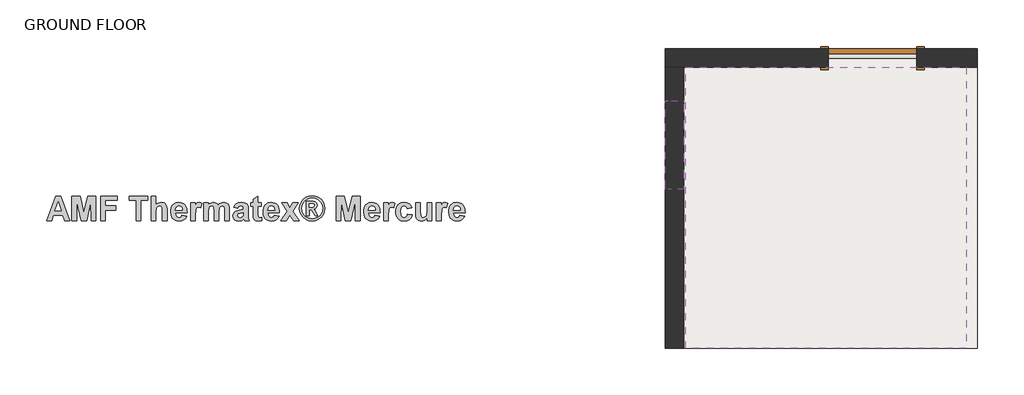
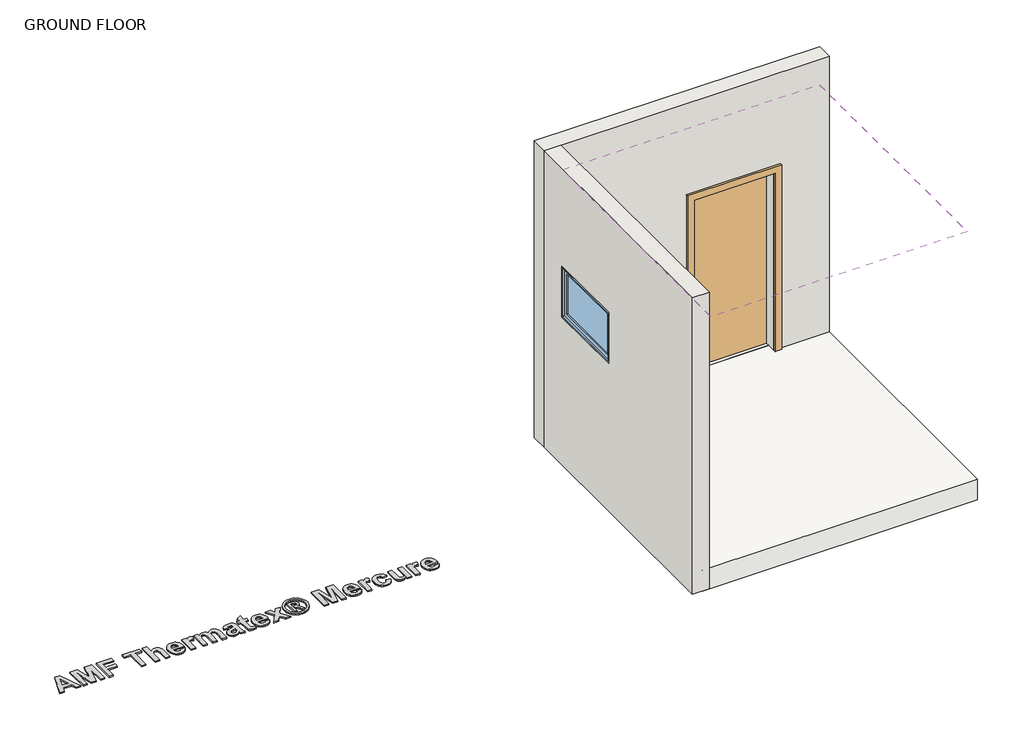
# One storey: 2 walls, 1 covering, 1 door, 1 proxy, 1 slab, 1 window.
"""IFC4 building model written with IfcOpenShell, lengths in millimetres."""

from ifc_helpers import new_model, si_unit, frame, origin, origin_with_axes, place, context, project, spatial, polyline, outline, extrude, faceted_brep, transform, mapped, element, save
from components import m_single_flush_0915_x_2134mm_f5238887, m_fixed_0915_x_0610mm_e83bb20a

model = new_model("IFC4")

# Units and contexts
model_context = context("Model", 3, world=origin())
ifc_project = project(units=[si_unit("LENGTHUNIT", "METRE", prefix="MILLI")], contexts=[model_context])

# Site, building, storey
site = spatial("IfcSite", under=ifc_project)
building = spatial("IfcBuilding", under=site)
storey = spatial("IfcBuildingStorey", under=building, Name="GROUND FLOOR", Elevation=0.0)

# Proxy
placement = place(None, origin())
element("IfcBuildingElementProxy", 1, Name="600mm Arial", ObjectType="600mm Arial", at=placement, inside=storey, context=model_context, shape_type="SweptSolid", body=[
    extrude(outline(polyline([(-7411.3659202, -8137.2370141), (-7462.4168463, -8137.2370141), (-7482.4070478, -8080.5559363), (-7578.752228, -8080.5559363), (-7598.489389, -8137.2370141), (-7650.2361766, -8137.2370141), (-7557.1172631, -7882.1721641), (-7505.3704756, -7882.1721641), (-7411.3659202, -8137.2370141)]), holes=[polyline([(-7497.9690402, -8036.0208038), (-7530.8010484, -7942.9018903), (-7563.1902357, -8036.0208038), (-7497.9690402, -8036.0208038)])]), origin_with_axes(), (0.0, 0.0, 1.0), 15.0),
    extrude(outline(polyline([(-7387.0740298, -8137.2370141), (-7387.0740298, -7882.1721641), (-7303.8236968, -7882.1721641), (-7263.5902532, -8056.1375256), (-7223.3568096, -7882.1721641), (-7140.1064766, -7882.1721641), (-7140.1064766, -8137.2370141), (-7188.6902575, -8137.2370141), (-7190.7145817, -7936.4493569), (-7235.123194, -8137.2370141), (-7291.9940522, -8137.2370141), (-7336.4659246, -7936.4493569), (-7338.4902488, -8137.2370141), (-7387.0740298, -8137.2370141)])), origin_with_axes(), (0.0, 0.0, 1.0), 15.0),
    extrude(outline(polyline([(-7091.5226956, -8137.2370141), (-7091.5226956, -7882.1721641), (-6917.4308139, -7882.1721641), (-6917.4308139, -7926.7072966), (-7042.9389147, -7926.7072966), (-7042.9389147, -7983.3883744), (-6933.6254076, -7983.3883744), (-6933.6254076, -8027.9235069), (-7042.9389147, -8027.9235069), (-7042.9389147, -8137.2370141), (-7091.5226956, -8137.2370141)])), origin_with_axes(), (0.0, 0.0, 1.0), 15.0),
    extrude(outline(polyline([(-6723.0956901, -8137.2370141), (-6723.0956901, -7926.7072966), (-6795.9713615, -7926.7072966), (-6795.9713615, -7882.1721641), (-6601.6362377, -7882.1721641), (-6601.6362377, -7926.7072966), (-6674.5119092, -7926.7072966), (-6674.5119092, -8137.2370141), (-6723.0956901, -8137.2370141)])), origin_with_axes(), (0.0, 0.0, 1.0), 15.0),
    extrude(outline(polyline([(-6520.6632695, -7882.1721641), (-6520.6632695, -7974.531956), (-6508.4580179, -7962.4650859), (-6495.1219914, -7953.845893), (-6480.6551901, -7948.6743773), (-6465.0576139, -7946.9505387), (-6449.2425811, -7948.5241345), (-6435.0723116, -7953.2449218), (-6423.3691873, -7960.4249467), (-6414.9555898, -7969.3762553), (-6405.7196106, -7991.1061104), (-6403.2524655, -8028.0500272), (-6403.2524655, -8137.2370141), (-6451.8362465, -8137.2370141), (-6451.8362465, -8038.1716482), (-6454.5564321, -8000.6900203), (-6464.1719721, -7988.0696241), (-6481.3787278, -7983.3883744), (-6492.6390312, -7984.8908025), (-6502.634132, -7989.3980869), (-6510.7393364, -7996.9260425), (-6516.3299505, -8007.4904845), (-6520.6632695, -8043.2957189), (-6520.6632695, -8137.2370141), (-6569.2470504, -8137.2370141), (-6569.2470504, -7882.1721641), (-6520.6632695, -7882.1721641)])), origin_with_axes(), (0.0, 0.0, 1.0), 15.0),
    extrude(outline(polyline([(-6249.4038258, -8080.5559363), (-6200.8200449, -8088.6532331), (-6212.6496895, -8111.3240827), (-6229.7931851, -8127.8428846), (-6252.0765664, -8137.924968), (-6279.325868, -8141.2856625), (-6301.3285325, -8139.3048296), (-6320.2709881, -8133.362331), (-6336.1532348, -8123.4581667), (-6348.9752727, -8109.5923366), (-6362.3547905, -8080.888052), (-6366.8146298, -8045.5098235), (-6365.3359242, -8023.6692631), (-6360.8998075, -8004.3274779), (-6353.5062796, -7987.4844679), (-6343.1553406, -7973.1402331), (-6330.5428519, -7961.6822418), (-6316.364675, -7953.4979623), (-6300.6208098, -7948.5873946), (-6283.3112563, -7946.9505387), (-6264.0762226, -7948.6308859), (-6246.9841258, -7953.6719277), (-6232.034966, -7962.0736639), (-6219.2287431, -7973.8360945), (-6209.0240932, -7989.069925), (-6201.8796521, -8007.8858603), (-6197.7954199, -8030.2839006), (-6196.7713965, -8056.2640458), (-6318.2308488, -8056.2640458), (-6315.1152874, -8076.7286983), (-6306.7807651, -8092.0692802), (-6294.4924845, -8101.6531901), (-6279.5156484, -8104.8478268), (-6269.3149522, -8103.4086588), (-6260.8539096, -8099.0911548), (-6254.1957808, -8091.5790142), (-6249.4038258, -8080.5559363)]), holes=[polyline([(-6245.3551774, -8027.9235069), (-6248.3125886, -8008.7161495), (-6256.1726599, -7994.743568), (-6267.5911136, -7986.2271728), (-6281.223672, -7983.3883744), (-6295.6153519, -7986.3774156), (-6307.2868461, -7995.3445392), (-6314.941322, -8009.4989937), (-6317.4084671, -8027.9235069), (-6245.3551774, -8027.9235069)])]), origin_with_axes(), (0.0, 0.0, 1.0), 15.0),
    extrude(outline(polyline([(-6111.7497798, -8137.2370141), (-6160.3335608, -8137.2370141), (-6160.3335608, -7950.9991871), (-6111.7497798, -7950.9991871), (-6111.7497798, -7976.935841), (-6092.3289195, -7952.7388407), (-6072.7182787, -7946.9505387), (-6057.5516622, -7949.512574), (-6042.9227568, -7957.19868), (-6057.0930262, -8003.4418361), (-6068.7961506, -7997.5111987), (-6079.613633, -7995.5343196), (-6096.7254986, -8001.0695811), (-6102.9724366, -8008.8268548), (-6107.7327615, -8021.0281526), (-6111.7497798, -8081.5048383), (-6111.7497798, -8137.2370141)])), origin_with_axes(), (0.0, 0.0, 1.0), 15.0),
    extrude(outline(polyline([(-6026.7281631, -7950.9991871), (-5978.1443822, -7950.9991871), (-5978.1443822, -7975.9236789), (-5966.1842636, -7963.24793), (-5953.1408152, -7954.1938237), (-5939.0140371, -7948.7613599), (-5923.8039293, -7946.9505387), (-5908.1549543, -7948.7297299), (-5894.7358989, -7954.0673035), (-5883.5309481, -7963.0107046), (-5874.5242869, -7975.6073782), (-5862.0857635, -7963.0107046), (-5848.6825232, -7954.0673035), (-5834.3303809, -7948.7297299), (-5819.0451516, -7946.9505387), (-5800.5890083, -7949.0302155), (-5785.2009813, -7955.269246), (-5773.0866661, -7965.5411098), (-5764.4516582, -7979.7192868), (-5760.7509405, -7995.2970941), (-5759.5173679, -8018.2447068), (-5759.5173679, -8137.2370141), (-5808.1011489, -8137.2370141), (-5808.1011489, -8030.0110913), (-5809.3347214, -8007.0634786), (-5813.0354391, -7994.0160765), (-5821.4174065, -7986.0452999), (-5833.4052014, -7983.3883744), (-5843.1077241, -7984.9777852), (-5852.2250906, -7989.7460176), (-5859.8163063, -7997.5823664), (-5864.940377, -8008.3761263), (-5868.8308751, -8047.1545869), (-5868.8308751, -8137.2370141), (-5917.414656, -8137.2370141), (-5917.414656, -8034.4393005), (-5919.9450613, -7999.1085171), (-5927.7576875, -7987.2788725), (-5942.1493674, -7983.3883744), (-5952.539844, -7984.9303401), (-5961.8232683, -7989.5562372), (-5969.3195939, -7997.1000079), (-5974.3487743, -8007.3955943), (-5978.1443822, -8046.0791647), (-5978.1443822, -8137.2370141), (-6026.7281631, -8137.2370141), (-6026.7281631, -7950.9991871)])), origin_with_axes(), (0.0, 0.0, 1.0), 15.0),
    extrude(outline(polyline([(-5670.4471028, -8007.6802649), (-5714.9822354, -7999.582968), (-5705.3271578, -7976.2399795), (-5690.5321946, -7959.8556055), (-5668.9683973, -7950.1768054), (-5639.0068175, -7946.9505387), (-5611.9156662, -7948.9036952), (-5592.7636614, -7954.7631649), (-5579.8269645, -7963.6195833), (-5571.381737, -7974.5635861), (-5566.7321173, -7991.5726539), (-5565.1822441, -8018.6242676), (-5565.1822441, -8076.064467), (-5562.6202088, -8112.2492622), (-5553.0362989, -8137.2370141), (-5601.6200798, -8137.2370141), (-5606.1748093, -8121.801542), (-5607.8828328, -8115.6653093), (-5633.8827469, -8134.8647591), (-5648.1953516, -8139.6804367), (-5663.4252283, -8141.2856625), (-5688.1994772, -8137.3872569), (-5707.106349, -8125.6920401), (-5719.0862364, -8108.0503709), (-5723.0795322, -8086.3126083), (-5721.300341, -8071.4148473), (-5715.9627674, -8058.2251099), (-5707.4147422, -8047.3285523), (-5696.0041959, -8039.3103306), (-5658.9970191, -8027.8602468), (-5613.7660251, -8015.7775617), (-5613.7660251, -8010.6534911), (-5615.2763607, -7998.0330948), (-5619.8073676, -7989.6511274), (-5628.5135432, -7984.9540627), (-5642.5493849, -7983.3883744), (-5652.6235608, -7984.7326522), (-5660.1989616, -7988.7654856), (-5670.4471028, -8007.6802649)]), holes=[polyline([(-5613.7660251, -8052.2153974), (-5641.157662, -8058.9526014), (-5665.702593, -8066.6387074), (-5672.2974617, -8073.5498767), (-5674.4957513, -8082.1374396), (-5672.7323751, -8090.748725), (-5667.4422466, -8098.1106228), (-5659.4319325, -8103.1635258), (-5649.5079993, -8104.8478268), (-5637.5992796, -8102.8867627), (-5626.2915311, -8097.0035705), (-5615.5373087, -8082.4537402), (-5613.7660251, -8061.0085557), (-5613.7660251, -8052.2153974)])]), origin_with_axes(), (0.0, 0.0, 1.0), 15.0),
    extrude(outline(polyline([(-5427.5281981, -7950.9991871), (-5427.5281981, -7987.4370228), (-5463.9660338, -7987.4370228), (-5463.9660338, -8067.3345688), (-5462.8589815, -8095.5802175), (-5457.8298011, -8102.2225313), (-5448.2775212, -8104.8478268), (-5425.5038739, -8100.166577), (-5423.4795497, -8134.7066088), (-5442.2203636, -8139.6408991), (-5463.2701724, -8141.2856625), (-5487.8151034, -8136.730933), (-5503.8515467, -8124.9645486), (-5510.9683115, -8105.417168), (-5512.5498148, -8070.0547545), (-5512.5498148, -7987.4370228), (-5536.8417052, -7987.4370228), (-5536.8417052, -7950.9991871), (-5512.5498148, -7950.9991871), (-5512.5498148, -7914.5613514), (-5463.9660338, -7886.2208125), (-5463.9660338, -7950.9991871), (-5427.5281981, -7950.9991871)])), origin_with_axes(), (0.0, 0.0, 1.0), 15.0),
    extrude(outline(polyline([(-5293.9228005, -8080.5559363), (-5245.3390195, -8088.6532331), (-5257.1686641, -8111.3240827), (-5274.3121597, -8127.8428846), (-5296.595541, -8137.924968), (-5323.8448427, -8141.2856625), (-5345.8475071, -8139.3048296), (-5364.7899627, -8133.362331), (-5380.6722095, -8123.4581667), (-5393.4942474, -8109.5923366), (-5406.8737652, -8080.888052), (-5411.3336044, -8045.5098235), (-5409.8548989, -8023.6692631), (-5405.4187822, -8004.3274779), (-5398.0252543, -7987.4844679), (-5387.6743153, -7973.1402331), (-5375.0618266, -7961.6822418), (-5360.8836496, -7953.4979623), (-5345.1397844, -7948.5873946), (-5327.8302309, -7946.9505387), (-5308.5951972, -7948.6308859), (-5291.5031005, -7953.6719277), (-5276.5539406, -7962.0736639), (-5263.7477178, -7973.8360945), (-5253.5430678, -7989.069925), (-5246.3986267, -8007.8858603), (-5242.3143945, -8030.2839006), (-5241.2903711, -8056.2640458), (-5362.7498235, -8056.2640458), (-5359.634262, -8076.7286983), (-5351.2997397, -8092.0692802), (-5339.0114592, -8101.6531901), (-5324.034623, -8104.8478268), (-5313.8339269, -8103.4086588), (-5305.3728843, -8099.0911548), (-5298.7147554, -8091.5790142), (-5293.9228005, -8080.5559363)]), holes=[polyline([(-5289.8741521, -8027.9235069), (-5292.8315632, -8008.7161495), (-5300.6916345, -7994.743568), (-5312.1100883, -7986.2271728), (-5325.7426466, -7983.3883744), (-5340.1343265, -7986.3774156), (-5351.8058208, -7995.3445392), (-5359.4602967, -8009.4989937), (-5361.9274418, -8027.9235069), (-5289.8741521, -8027.9235069)])]), origin_with_axes(), (0.0, 0.0, 1.0), 15.0),
    extrude(outline(polyline([(-5227.1201017, -8137.2370141), (-5161.329565, -8041.3346548), (-5219.0228048, -7950.9991871), (-5161.2663048, -7950.9991871), (-5133.1788065, -8002.1766334), (-5102.6874231, -7950.9991871), (-5044.9309231, -7950.9991871), (-5104.3321865, -8039.1838103), (-5036.8336263, -8137.2370141), (-5094.5901263, -8137.2370141), (-5133.1788065, -8079.5437742), (-5169.3636017, -8137.2370141), (-5227.1201017, -8137.2370141)])), origin_with_axes(), (0.0, 0.0, 1.0), 15.0),
    extrude(outline(polyline([(-4903.2282287, -7878.1235157), (-4870.0720123, -7882.354037), (-4838.2917037, -7895.0456008), (-4810.5284136, -7915.6367736), (-4789.4232522, -7943.5661217), (-4776.0911795, -7975.8999563), (-4771.6471553, -8009.7045891), (-4776.0041968, -8043.2640888), (-4789.0753215, -8075.2420853), (-4809.9432573, -8102.9895604), (-4837.6907325, -8123.8574963), (-4869.6687289, -8136.9286209), (-4903.2282287, -8141.2856625), (-4936.7877284, -8136.9286209), (-4968.7657248, -8123.8574963), (-4996.5132, -8102.9895604), (-5017.3811359, -8075.2420853), (-5030.4522605, -8043.2640888), (-5034.8093021, -8009.7045891), (-5030.3652778, -7975.8999563), (-5017.0332051, -7943.5661217), (-4995.9280438, -7915.6367736), (-4968.1647536, -7895.0456008), (-4936.3844451, -7882.354037), (-4903.2282287, -7878.1235157)]), holes=[polyline([(-4903.2914888, -7902.4154061), (-4930.2956574, -7905.8551758), (-4956.1453286, -7916.1744847), (-4978.7371031, -7932.9305121), (-4995.9675814, -7955.6804368), (-5006.879954, -7982.0440966), (-5010.5174116, -8009.6413289), (-5006.9669367, -8037.0092433), (-4996.3155121, -8063.06451), (-4979.2985367, -8085.6800069), (-4956.6514097, -8102.7286124), (-4930.580328, -8113.4274821), (-4903.2914888, -8116.993772), (-4875.931482, -8113.4274821), (-4849.8999379, -8102.7286124), (-4827.3002559, -8085.6800069), (-4810.2358354, -8063.06451), (-4799.5132432, -8037.0092433), (-4795.9390457, -8009.6413289), (-4799.5765033, -7982.0440966), (-4810.488876, -7955.6804368), (-4827.7430768, -7932.9305121), (-4850.4060189, -7916.1744847), (-4876.3110427, -7905.8551758), (-4903.2914888, -7902.4154061)])]), origin_with_axes(), (0.0, 0.0, 1.0), 15.0),
    extrude(outline(polyline([(-4961.9336307, -8084.6045847), (-4961.9336307, -7934.8045934), (-4934.5419937, -7934.8045934), (-4891.4618442, -7935.1841542), (-4870.3013303, -7941.1622367), (-4857.680934, -7955.5539166), (-4852.6201235, -7976.9991011), (-4854.9686559, -7992.0233823), (-4862.014253, -8004.7070387), (-4873.314094, -8014.0379081), (-4888.4253579, -8019.0038284), (-4878.6516676, -8024.6339801), (-4869.194278, -8036.147324), (-4858.8828765, -8054.3662419), (-4844.5228267, -8084.6045847), (-4872.8633656, -8084.6045847), (-4886.8438546, -8060.6289949), (-4908.2574091, -8030.1376115), (-4916.4733187, -8025.4405468), (-4926.6344773, -8023.8748585), (-4933.5930918, -8023.8748585), (-4933.5930918, -8084.6045847), (-4961.9336307, -8084.6045847)]), holes=[polyline([(-4933.5930918, -7999.582968), (-4922.5225688, -7999.582968), (-4893.2331279, -7997.5902739), (-4884.2501892, -7990.5683993), (-4880.9606624, -7979.1499456), (-4884.1869291, -7968.1110527), (-4893.3596482, -7961.1840683), (-4922.5225688, -7959.0964839), (-4933.5930918, -7959.0964839), (-4933.5930918, -7999.582968)])]), origin_with_axes(), (0.0, 0.0, 1.0), 15.0),
    extrude(outline(polyline([(-4654.2363513, -8137.2370141), (-4654.2363513, -7882.1721641), (-4570.9860183, -7882.1721641), (-4530.7525747, -8056.1375256), (-4490.5191311, -7882.1721641), (-4407.2687981, -7882.1721641), (-4407.2687981, -8137.2370141), (-4455.8525791, -8137.2370141), (-4457.8769033, -7936.4493569), (-4502.2855156, -8137.2370141), (-4559.1563737, -8137.2370141), (-4603.6282461, -7936.4493569), (-4605.6525704, -8137.2370141), (-4654.2363513, -8137.2370141)])), origin_with_axes(), (0.0, 0.0, 1.0), 15.0),
    extrude(outline(polyline([(-4253.4201585, -8080.5559363), (-4204.8363775, -8088.6532331), (-4216.6660221, -8111.3240827), (-4233.8095177, -8127.8428846), (-4256.092899, -8137.924968), (-4283.3422006, -8141.2856625), (-4305.3448651, -8139.3048296), (-4324.2873207, -8133.362331), (-4340.1695675, -8123.4581667), (-4352.9916054, -8109.5923366), (-4366.3711232, -8080.888052), (-4370.8309624, -8045.5098235), (-4369.3522569, -8023.6692631), (-4364.9161401, -8004.3274779), (-4357.5226123, -7987.4844679), (-4347.1716733, -7973.1402331), (-4334.5591846, -7961.6822418), (-4320.3810076, -7953.4979623), (-4304.6371424, -7948.5873946), (-4287.3275889, -7946.9505387), (-4268.0925552, -7948.6308859), (-4251.0004584, -7953.6719277), (-4236.0512986, -7962.0736639), (-4223.2450758, -7973.8360945), (-4213.0404258, -7989.069925), (-4205.8959847, -8007.8858603), (-4201.8117525, -8030.2839006), (-4200.7877291, -8056.2640458), (-4322.2471815, -8056.2640458), (-4319.13162, -8076.7286983), (-4310.7970977, -8092.0692802), (-4298.5088171, -8101.6531901), (-4283.531981, -8104.8478268), (-4273.3312848, -8103.4086588), (-4264.8702423, -8099.0911548), (-4258.2121134, -8091.5790142), (-4253.4201585, -8080.5559363)]), holes=[polyline([(-4249.37151, -8027.9235069), (-4252.3289212, -8008.7161495), (-4260.1889925, -7994.743568), (-4271.6074463, -7986.2271728), (-4285.2400046, -7983.3883744), (-4299.6316845, -7986.3774156), (-4311.3031787, -7995.3445392), (-4318.9576546, -8009.4989937), (-4321.4247998, -8027.9235069), (-4249.37151, -8027.9235069)])]), origin_with_axes(), (0.0, 0.0, 1.0), 15.0),
    extrude(outline(polyline([(-4115.7661124, -8137.2370141), (-4164.3498934, -8137.2370141), (-4164.3498934, -7950.9991871), (-4115.7661124, -7950.9991871), (-4115.7661124, -7976.935841), (-4096.3452521, -7952.7388407), (-4076.7346113, -7946.9505387), (-4061.5679948, -7949.512574), (-4046.9390894, -7957.19868), (-4061.1093589, -8003.4418361), (-4072.8124832, -7997.5111987), (-4083.6299657, -7995.5343196), (-4100.7418312, -8001.0695811), (-4106.9887692, -8008.8268548), (-4111.7490941, -8021.0281526), (-4115.7661124, -8081.5048383), (-4115.7661124, -8137.2370141)])), origin_with_axes(), (0.0, 0.0, 1.0), 15.0),
    extrude(outline(polyline([(-3872.8472077, -8003.6316165), (-3921.4309886, -8011.7289133), (-3925.1554289, -7999.3694651), (-3931.7740201, -7990.5051392), (-3941.0495369, -7985.1675656), (-3952.7447537, -7983.3883744), (-3968.1485957, -7986.7253463), (-3980.0731305, -7996.7362621), (-3987.7117914, -8014.5598042), (-3990.2580116, -8041.3346548), (-3987.6089936, -8071.0194715), (-3979.6619396, -8090.4877769), (-3967.2550463, -8101.2578143), (-3951.2265105, -8104.8478268), (-3939.0884728, -8102.79978), (-3929.3701351, -8096.6556398), (-3922.1189426, -8085.4981341), (-3917.3823402, -8068.4099911), (-3868.7985593, -8076.5072879), (-3879.4341689, -8104.6501389), (-3896.7911674, -8124.9329185), (-3921.0277053, -8137.1974765), (-3952.3019328, -8141.2856625), (-3971.0684461, -8139.6764829), (-3987.8304041, -8134.8489441), (-4002.5878066, -8126.8030461), (-4015.3406538, -8115.538789), (-4025.622402, -8101.4317797), (-4032.9665079, -8084.8576252), (-4037.3729714, -8065.8163257), (-4038.8417926, -8044.307881), (-4037.3828558, -8022.5562802), (-4033.0060455, -8003.3548534), (-4025.7113616, -7986.7036007), (-4015.4988041, -7972.602522), (-4002.7953789, -7961.3797793), (-3988.028092, -7953.3635345), (-3971.1969433, -7948.5537876), (-3952.3019328, -7946.9505387), (-3923.059937, -7950.4535685), (-3900.4918851, -7960.9626578), (-3883.9651758, -7978.635957), (-3872.8472077, -8003.6316165)])), origin_with_axes(), (0.0, 0.0, 1.0), 15.0),
    extrude(outline(polyline([(-3714.9499196, -8137.2370141), (-3714.9499196, -8109.9086373), (-3726.1390553, -8122.9639469), (-3740.3488624, -8132.9036951), (-3756.5197335, -8139.1901706), (-3773.5920614, -8141.2856625), (-3790.4667015, -8139.2297082), (-3805.5384278, -8133.0618454), (-3817.7476332, -8123.1695423), (-3826.0347104, -8109.9402674), (-3830.7792203, -8092.187893), (-3832.3607236, -8068.7262917), (-3832.3607236, -7950.9991871), (-3783.7769426, -7950.9991871), (-3783.7769426, -8037.096226), (-3781.1516472, -8085.5218566), (-3771.5361072, -8099.6288659), (-3753.7916403, -8104.8478268), (-3742.1596836, -8103.1081732), (-3731.8087446, -8097.8892123), (-3723.6323726, -8090.0844936), (-3718.524117, -8080.5875664), (-3714.9499196, -8030.0110913), (-3714.9499196, -7950.9991871), (-3666.3661386, -7950.9991871), (-3666.3661386, -8137.2370141), (-3714.9499196, -8137.2370141)])), origin_with_axes(), (0.0, 0.0, 1.0), 15.0),
    extrude(outline(polyline([(-3569.1985767, -8137.2370141), (-3617.7823577, -8137.2370141), (-3617.7823577, -7950.9991871), (-3569.1985767, -7950.9991871), (-3569.1985767, -7976.935841), (-3549.7777164, -7952.7388407), (-3530.1670756, -7946.9505387), (-3515.0004591, -7949.512574), (-3500.3715537, -7957.19868), (-3514.5418232, -8003.4418361), (-3526.2449475, -7997.5111987), (-3537.06243, -7995.5343196), (-3554.1742955, -8001.0695811), (-3560.4212335, -8008.8268548), (-3565.1815584, -8021.0281526), (-3569.1985767, -8081.5048383), (-3569.1985767, -8137.2370141)])), origin_with_axes(), (0.0, 0.0, 1.0), 15.0),
    extrude(outline(polyline([(-3374.8634529, -8080.5559363), (-3326.279672, -8088.6532331), (-3338.1093166, -8111.3240827), (-3355.2528122, -8127.8428846), (-3377.5361935, -8137.924968), (-3404.7854951, -8141.2856625), (-3426.7881596, -8139.3048296), (-3445.7306152, -8133.362331), (-3461.6128619, -8123.4581667), (-3474.4348998, -8109.5923366), (-3487.8144176, -8080.888052), (-3492.2742569, -8045.5098235), (-3490.7955513, -8023.6692631), (-3486.3594346, -8004.3274779), (-3478.9659068, -7987.4844679), (-3468.6149677, -7973.1402331), (-3456.002479, -7961.6822418), (-3441.8243021, -7953.4979623), (-3426.0804369, -7948.5873946), (-3408.7708834, -7946.9505387), (-3389.5358497, -7948.6308859), (-3372.4437529, -7953.6719277), (-3357.4945931, -7962.0736639), (-3344.6883702, -7973.8360945), (-3334.4837203, -7989.069925), (-3327.3392792, -8007.8858603), (-3323.255047, -8030.2839006), (-3322.2310236, -8056.2640458), (-3443.690476, -8056.2640458), (-3440.5749145, -8076.7286983), (-3432.2403922, -8092.0692802), (-3419.9521116, -8101.6531901), (-3404.9752755, -8104.8478268), (-3394.7745793, -8103.4086588), (-3386.3135367, -8099.0911548), (-3379.6554079, -8091.5790142), (-3374.8634529, -8080.5559363)]), holes=[polyline([(-3370.8148045, -8027.9235069), (-3373.7722157, -8008.7161495), (-3381.632287, -7994.743568), (-3393.0507407, -7986.2271728), (-3406.6832991, -7983.3883744), (-3421.074979, -7986.3774156), (-3432.7464732, -7995.3445392), (-3440.4009491, -8009.4989937), (-3442.8680942, -8027.9235069), (-3370.8148045, -8027.9235069)])]), origin_with_axes(), (0.0, 0.0, 1.0), 15.0),
])

# Covering
element("IfcCovering", 2, ObjectType="AMF Thermatex® Mercure - 600x600mm", at=placement, inside=storey, context=model_context, shape_type="SweptSolid", body=[
    extrude(outline(polyline([(-1041.7221628, -6550.6917524), (1863.2778372, -6550.6917524), (1863.2778372, -9455.6917524), (-1041.7221628, -9455.6917524), (-1041.7221628, -6550.6917524)])), frame((0.0, 0.0, 3000.0), z_axis=(0.0, 0.0, 1.0), x_axis=(1.0, 0.0, 0.0)), (0.0, 0.0, 1.0), 51.0),
])

# Door
m_single_flush_0915_x_2134mm_shape = m_single_flush_0915_x_2134mm_f5238887(model_context)
element("IfcDoor", 3, ObjectType="M_Single-Flush : 0915 x 2134mm", at=placement, inside=storey, context=model_context, shape_type="MappedRepresentation", body=[
    mapped(m_single_flush_0915_x_2134mm_shape, transform((891.2778372, -6455.6917524, 0.0), x_axis=(1.0, 0.0, 0.0), y_axis=(0.0, 1.0, 0.0), z_axis=(0.0, 0.0, 1.0))),
])

# Slab
element("IfcSlab", 4, ObjectType="Generic Floor - 250mm", at=placement, inside=storey, context=model_context, shape_type="Brep", body=[
    faceted_brep([(-1136.7221628, -6455.6917524, -250.0), (1977.2778372, -6455.6917524, -250.0), (1977.2778372, -9455.6917524, -250.0), (-1136.7221628, -9455.6917524, -250.0), (-1136.7221628, -6550.6917524, -250.0), (-1136.7221628, -6455.6917524, 0.0), (-1136.7221628, -6550.6917524, 0.0), (-1136.7221628, -9455.6917524, 0.0), (1977.2778372, -9455.6917524, 0.0), (1977.2778372, -6550.6917524, 0.0), (1977.2778372, -6455.6917524, 0.0), (1348.7778372, -6455.6917524, 0.0), (433.7778372, -6455.6917524, 0.0)], [[[0, 1, 2, 3, 4]], [[5, 6, 7, 8, 9, 10, 11, 12]], [[1, 0, 5, 12, 11, 10]], [[2, 1, 10, 9, 8]], [[3, 2, 8, 7]], [[0, 4, 3, 7, 6, 5]]]),
])

# Walls
element("IfcWall", 5, ObjectType="190mm MAXI BLOCK- plastered", at=placement, inside=storey, context=model_context, shape_type="Brep", body=[
    faceted_brep([(1977.2778372, -6550.6917524, 3300.0), (-1060.7221628, -6550.6917524, 3300.0), (-1250.7221628, -6550.6917524, 3300.0), (-1250.7221628, -6550.6917524, -250.0), (-1136.7221628, -6550.6917524, -250.0), (-1136.7221628, -6550.6917524, 0.0), (433.7778372, -6550.6917524, 0.0), (433.7778372, -6550.6917524, 2134.0), (1348.7778372, -6550.6917524, 2134.0), (1348.7778372, -6550.6917524, 0.0), (1977.2778372, -6550.6917524, 0.0), (1977.2778372, -6360.6917524, -250.0), (-1250.7221628, -6360.6917524, -250.0), (-1250.7221628, -6360.6917524, 3300.0), (1977.2778372, -6360.6917524, 3300.0), (433.7778372, -6360.6917524, 0.0), (1348.7778372, -6360.6917524, 0.0), (1348.7778372, -6360.6917524, 2134.0), (433.7778372, -6360.6917524, 2134.0), (1977.2778372, -6455.6917524, -250.0), (-1136.7221628, -6455.6917524, -250.0), (1977.2778372, -6455.6917524, 0.0), (433.7778372, -6455.6917524, 0.0), (1348.7778372, -6455.6917524, 0.0), (-1136.7221628, -6455.6917524, 0.0)], [[[0, 1, 2, 3, 4, 5, 6, 7, 8, 9, 10]], [[11, 12, 13, 14], [15, 16, 17, 18]], [[12, 11, 19, 20, 4, 3]], [[11, 14, 0, 10, 21, 19]], [[2, 1, 0, 14, 13]], [[16, 15, 22, 23]], [[17, 16, 23, 9, 8]], [[18, 17, 8, 7]], [[15, 18, 7, 6, 22]], [[24, 22, 6, 5]], [[23, 21, 10, 9]], [[24, 20, 19, 21, 23, 22]], [[20, 24, 5, 4]], [[3, 2, 13, 12]]]),
])
element("IfcWall", 6, ObjectType="190mm MAXI BLOCK- plastered", at=placement, inside=storey, context=model_context, shape_type="SweptSolid", body=[
    extrude(outline(polyline([(-9455.6917524, -250.0), (-9455.6917524, 3300.0), (-6550.6917524, 3300.0), (-6550.6917524, -250.0), (-9455.6917524, -250.0)]), holes=[polyline([(-7813.1917524, 1518.2533986), (-6898.1917524, 1518.2533986), (-6898.1917524, 2128.2533986), (-7813.1917524, 2128.2533986), (-7813.1917524, 1518.2533986)])]), frame((-1250.7221628, 0.0, 0.0), z_axis=(1.0, 0.0, 0.0), x_axis=(0.0, 1.0, 0.0)), (0.0, 0.0, 1.0), 190.0),
])

# Window
m_fixed_0915_x_0610mm_shape = m_fixed_0915_x_0610mm_e83bb20a(model_context)
element("IfcWindow", 7, ObjectType="M_Fixed : 0915 x 0610mm", at=placement, inside=storey, context=model_context, shape_type="MappedRepresentation", body=[
    mapped(m_fixed_0915_x_0610mm_shape, transform((-1142.7221628, -7355.6917524, 603.2533986), x_axis=(0.0, 1.0, 0.0), y_axis=(-1.0, 0.0, 0.0), z_axis=(0.0, 0.0, 1.0))),
])

save(model, "model.ifc")
